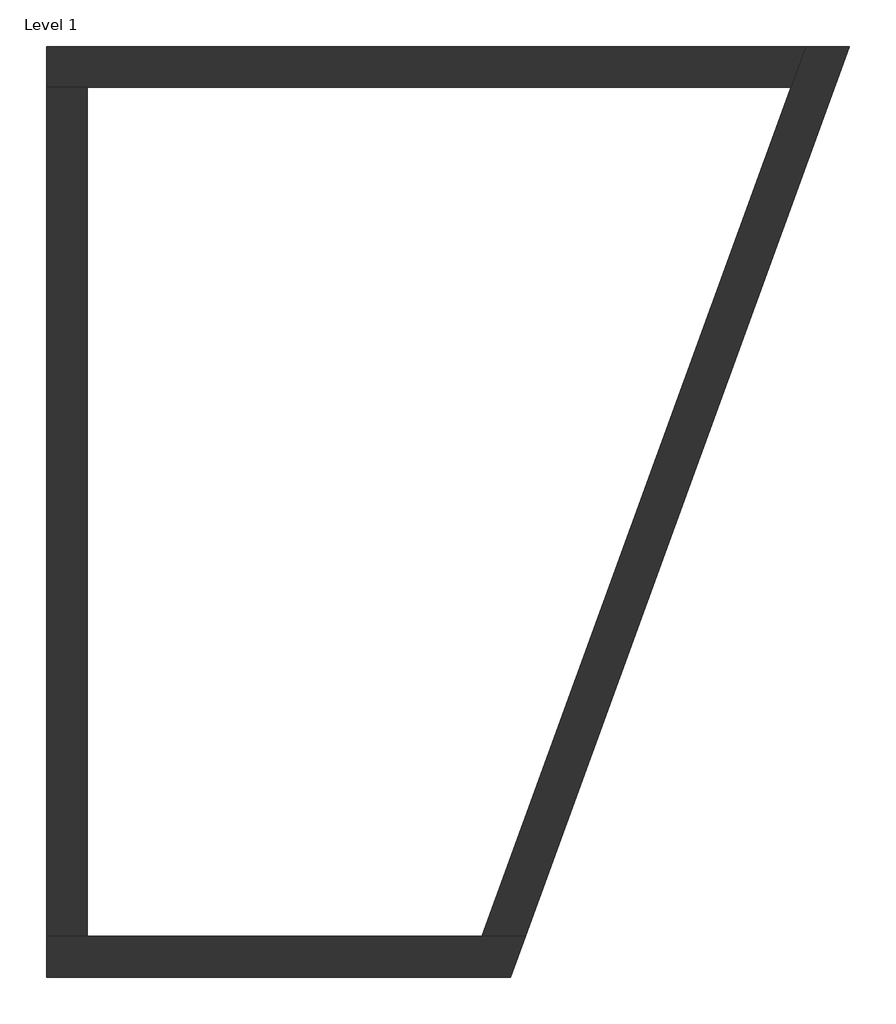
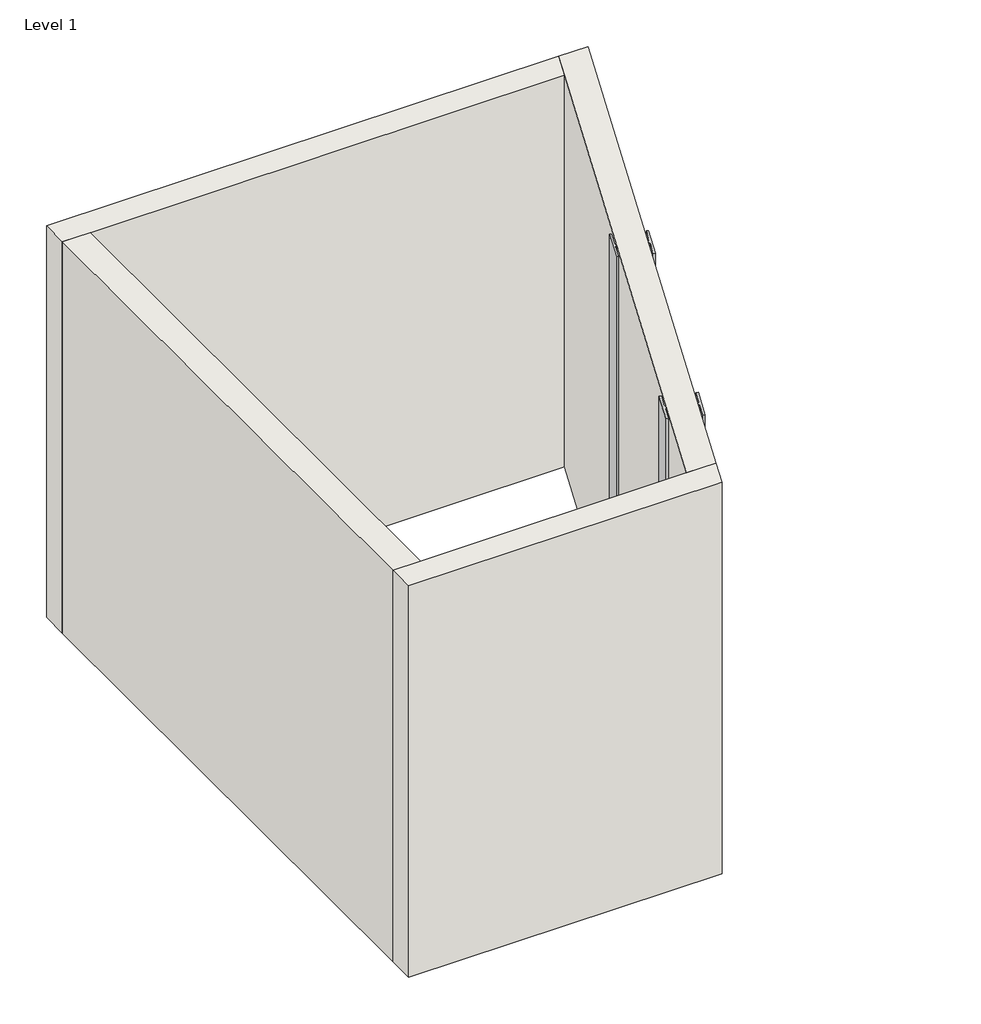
# One storey: 4 walls, 2 columns.
"""IFC4 building model written with IfcOpenShell, lengths in millimetres."""

import ifcopenshell
import ifcopenshell.guid

model = None  # the IFC model being written
_history = None  # IfcOwnerHistory: only IFC2X3 demands one
_inside = {}  # id of a spatial element -> (the spatial element, [elements in it])
_under = {}  # id of a project, library or spatial element -> (it, [spatial elements below it])
_declared = {}  # id of a project -> (the project, [libraries it declares])
_typed = {}  # id of a type object -> (the type object, [elements of that type])
_made_of = {}  # id of a material, layer set ... -> (it, [elements and type objects made of it])


def new_model(schema):
    """Start an empty IFC model of exactly this schema.

    Asked for "IFC4X3", IfcOpenShell would pick the latest addendum, in which some entities
    have other attributes; the version numbers below select the first issue.
    IFC2X3 requires an IfcOwnerHistory on every rooted entity: one is made here for all.
    """
    global model, _history
    if schema == "IFC4X3":
        model = ifcopenshell.file(schema_version=(4, 3, 0, 0))
    else:
        model = ifcopenshell.file(schema=schema)
    _inside.clear()
    _under.clear()
    _declared.clear()
    _typed.clear()
    _made_of.clear()
    _history = None
    if model.schema == "IFC2X3":
        org = make("IfcOrganization", Name="unknown")
        user = make(
            "IfcPersonAndOrganization",
            ThePerson=make("IfcPerson", FamilyName="unknown"),
            TheOrganization=org,
        )
        app = make(
            "IfcApplication",
            ApplicationDeveloper=org,
            Version="unknown",
            ApplicationFullName="unknown",
            ApplicationIdentifier="unknown",
        )
        _history = make(
            "IfcOwnerHistory",
            OwningUser=user,
            OwningApplication=app,
            ChangeAction="ADDED",
            CreationDate=0,
        )
    return model


def make(cls, **values):
    """One entity of the class cls with the attributes given. An attribute that is None is left unset."""
    return model.create_entity(
        cls, **{name: value for name, value in values.items() if value is not None}
    )


def rooted(cls, **values):
    """An entity with a GlobalId (a new one), such as an element, a storey or a relation."""
    return make(cls, GlobalId=ifcopenshell.guid.new(), OwnerHistory=_history, **values)


def si_unit(unit_type, name, prefix=None):
    """IfcSIUnit, for example si_unit("LENGTHUNIT", "METRE", prefix="MILLI")."""
    return make("IfcSIUnit", UnitType=unit_type, Prefix=prefix, Name=name)


def assignment(units):
    """IfcUnitAssignment: the units of a project."""
    return None if units is None else make("IfcUnitAssignment", Units=units)


def point(xyz):
    """IfcCartesianPoint."""
    return None if xyz is None else make("IfcCartesianPoint", Coordinates=xyz)


def direction(xyz):
    """IfcDirection."""
    return None if xyz is None else make("IfcDirection", DirectionRatios=xyz)


def frame(location, z_axis=None, x_axis=None):
    """IfcAxis2Placement3D, a coordinate frame: its origin and axes. An axis left out is left unset."""
    return make(
        "IfcAxis2Placement3D",
        Location=point(location),
        Axis=direction(z_axis),
        RefDirection=direction(x_axis),
    )


def frame_2d(location, x_axis=None):
    """IfcAxis2Placement2D, a coordinate frame in the plane: its origin and x axis."""
    return make(
        "IfcAxis2Placement2D", Location=point(location), RefDirection=direction(x_axis)
    )


def origin():
    """The frame at (0, 0, 0) with its axes left unset."""
    return frame((0.0, 0.0, 0.0))


def origin_with_axes():
    """The frame at (0, 0, 0) with the z axis (0, 0, 1) and the x axis (1, 0, 0) written out."""
    return frame((0.0, 0.0, 0.0), z_axis=(0.0, 0.0, 1.0), x_axis=(1.0, 0.0, 0.0))


def place(relative_to, where):
    """IfcLocalPlacement: puts the frame where relative to a parent placement (None: the world)."""
    return make(
        "IfcLocalPlacement", PlacementRelTo=relative_to, RelativePlacement=where
    )


def context(
    kind, dimensions, precision=None, world=None, true_north=None, identifier=None
):
    """IfcGeometricRepresentationContext, for example the 3D "Model" context."""
    return make(
        "IfcGeometricRepresentationContext",
        ContextIdentifier=identifier,
        ContextType=kind,
        CoordinateSpaceDimension=dimensions,
        Precision=precision,
        WorldCoordinateSystem=world,
        TrueNorth=true_north,
    )


def project(units=None, contexts=None):
    """IfcProject with its units and contexts."""
    return rooted(
        "IfcProject",
        Name="project",
        RepresentationContexts=contexts,
        UnitsInContext=assignment(units),
    )


def spatial(cls, under=None, at=None, **own):
    """A site, building, storey or space (cls), placed at a placement, below another one or the project."""
    s = rooted(cls, ObjectPlacement=at, **own)
    if under is not None:
        _under.setdefault(under.id(), (under, []))[1].append(s)
    return s


def polyline(points):
    """IfcPolyline through the points."""
    return make("IfcPolyline", Points=[point(p) for p in points])


def circle_curve(where, radius):
    """IfcCircle in the frame where."""
    return make("IfcCircle", Position=where, Radius=radius)


def trimmed(basis, trim1, trim2, sense, master):
    """IfcTrimmedCurve: the piece of a basis curve between two trims."""
    return make(
        "IfcTrimmedCurve",
        BasisCurve=basis,
        Trim1=trim1,
        Trim2=trim2,
        SenseAgreement=sense,
        MasterRepresentation=master,
    )


def segment(curve, same_sense, transition):
    """IfcCompositeCurveSegment."""
    return make(
        "IfcCompositeCurveSegment",
        Transition=transition,
        SameSense=same_sense,
        ParentCurve=curve,
    )


def composite_curve(segments, self_intersect=None):
    """IfcCompositeCurve: segments joined end to end."""
    return make("IfcCompositeCurve", Segments=segments, SelfIntersect=self_intersect)


def outline(outer, holes=None, kind="AREA"):
    """IfcArbitraryClosedProfileDef: a profile drawn as a closed curve; with holes, ...WithVoids."""
    if holes is None:
        return make("IfcArbitraryClosedProfileDef", ProfileType=kind, OuterCurve=outer)
    return make(
        "IfcArbitraryProfileDefWithVoids",
        ProfileType=kind,
        OuterCurve=outer,
        InnerCurves=holes,
    )


def extrude(swept, where, along, depth):
    """IfcExtrudedAreaSolid: the profile swept, set in the frame where, extruded along a direction by depth."""
    return make(
        "IfcExtrudedAreaSolid",
        SweptArea=swept,
        Position=where,
        ExtrudedDirection=direction(along),
        Depth=depth,
    )


def faces_of(points, faces, orient=None, outer=None):
    """IfcFace entities. A face is a list of loops; a loop is a list of indices into points, from 0.

    orient and outer hold one flag for each loop. By default every Orientation is true, the
    first loop of a face is its IfcFaceOuterBound and the others are IfcFaceBound.
    """
    made = []
    for i, loops in enumerate(faces):
        bounds = []
        for j, loop in enumerate(loops):
            is_outer = j == 0 if outer is None else outer[i][j]
            bounds.append(
                make(
                    "IfcFaceOuterBound" if is_outer else "IfcFaceBound",
                    Bound=make("IfcPolyLoop", Polygon=[points[k] for k in loop]),
                    Orientation=True if orient is None else orient[i][j],
                )
            )
        made.append(make("IfcFace", Bounds=bounds))
    return made


def faceted_brep(points, faces, orient=None, outer=None, voids=None):
    """IfcFacetedBrep: a solid bounded by flat faces; with voids (closed shells), ...WithVoids."""
    shared = [point(p) for p in points]
    hull = make("IfcClosedShell", CfsFaces=faces_of(shared, faces, orient, outer))
    if voids is None:
        return make("IfcFacetedBrep", Outer=hull)
    return make(
        "IfcFacetedBrepWithVoids",
        Outer=hull,
        Voids=[
            make(cls, CfsFaces=faces_of(shared, fs, o, b)) for cls, fs, o, b in voids
        ],
    )


def shape(context_of_items, identifier, shape_type, items):
    """IfcShapeRepresentation: the items that make up one representation, for example the "Body"."""
    return make(
        "IfcShapeRepresentation",
        ContextOfItems=context_of_items,
        RepresentationIdentifier=identifier,
        RepresentationType=shape_type,
        Items=items,
    )


def source(mapping_origin, context_of_items, identifier, shape_type, items):
    """IfcRepresentationMap: a shape defined once, which mapped items show again and again."""
    return make(
        "IfcRepresentationMap",
        MappingOrigin=mapping_origin,
        MappedRepresentation=shape(context_of_items, identifier, shape_type, items),
    )


def transform(
    local_origin,
    x_axis=None,
    y_axis=None,
    z_axis=None,
    scale=None,
    scale2=None,
    scale3=None,
    uniform=True,
):
    """IfcCartesianTransformationOperator3D, or its non-uniform kind. x_axis, y_axis, z_axis: its Axis1, 2, 3."""
    if uniform:
        return make(
            "IfcCartesianTransformationOperator3D",
            Axis1=direction(x_axis),
            Axis2=direction(y_axis),
            LocalOrigin=point(local_origin),
            Scale=scale,
            Axis3=direction(z_axis),
        )
    return make(
        "IfcCartesianTransformationOperator3DnonUniform",
        Axis1=direction(x_axis),
        Axis2=direction(y_axis),
        LocalOrigin=point(local_origin),
        Scale=scale,
        Axis3=direction(z_axis),
        Scale2=scale2,
        Scale3=scale3,
    )


def mapped(mapping_source, mapping_target):
    """IfcMappedItem: shows the shape of a source again, moved by a transform."""
    return make(
        "IfcMappedItem", MappingSource=mapping_source, MappingTarget=mapping_target
    )


def made_of(thing, what):
    """Note that an element or type object is made of a material, layer set ...; save() writes the relation."""
    if what is not None:
        _made_of.setdefault(what.id(), (what, []))[1].append(thing)
    return thing


def element(
    cls,
    number,
    at=None,
    inside=None,
    cuts=None,
    type_object=None,
    material=None,
    context=None,
    identifier="Body",
    shape_type=None,
    held_by="IfcProductDefinitionShape",
    body=None,
    shapes=None,
    **own,
):
    """One element of the class cls, such as IfcWall. Its Tag is "e" and its number.

    at: its placement. inside: the storey or other place that contains it. cuts: it is an
    opening in that element (IfcRelVoidsElement). A single representation is given by context,
    identifier, shape_type and body (its items); several are given by shapes. held_by: the class
    of the entity that holds the representations. save() writes the other relations.
    """
    e = rooted(cls, Tag="e%d" % number, ObjectPlacement=at, **own)
    if body is not None:
        shapes = [shape(context, identifier, shape_type, body)]
    if shapes is not None:
        e.Representation = make(held_by, Representations=shapes)
    if inside is not None:
        _inside.setdefault(inside.id(), (inside, []))[1].append(e)
    if cuts is not None:
        rooted(
            "IfcRelVoidsElement", RelatingBuildingElement=cuts, RelatedOpeningElement=e
        )
    if type_object is not None:
        _typed.setdefault(type_object.id(), (type_object, []))[1].append(e)
    return made_of(e, material)


def aggregate(whole, parts):
    """IfcRelAggregates: a whole, such as a stair, and the parts it consists of."""
    return rooted("IfcRelAggregates", RelatingObject=whole, RelatedObjects=parts)


def save(model, path):
    """Write the relations noted so far, then the file.

    IfcRelAggregates (storeys below a building ...), IfcRelContainedInSpatialStructure (elements
    in a storey), IfcRelDefinesByType, IfcRelAssociatesMaterial and IfcRelDeclares: one each for
    every whole, place, type object, material and project.
    """
    for whole, parts in _under.values():
        aggregate(whole, parts)
    for where, things in _inside.values():
        rooted(
            "IfcRelContainedInSpatialStructure",
            RelatedElements=things,
            RelatingStructure=where,
        )
    for kind, things in _typed.values():
        rooted("IfcRelDefinesByType", RelatedObjects=things, RelatingType=kind)
    for what, things in _made_of.values():
        rooted("IfcRelAssociatesMaterial", RelatedObjects=things, RelatingMaterial=what)
    for by, libraries in _declared.values():
        rooted("IfcRelDeclares", RelatingContext=by, RelatedDefinitions=libraries)
    model.write(path)


def w_wide_flange_column_w10x49_f24ffb9b(model_context):
    return source(origin(), model_context, "Body", "SweptSolid", [
        extrude(outline(composite_curve([segment(polyline([(127.0, 126.7519531), (127.0, 112.5636719), (21.8777344, 112.5636719)]), True, "CONTINUOUS"), segment(trimmed(circle_curve(frame_2d((21.8777344, 95.0019531)), 17.5617188), [point((21.8777344, 112.5636719))], [point((4.3160156, 95.0019531))], True, "CARTESIAN"), True, "CONTINUOUS"), segment(polyline([(4.3160156, 95.0019531), (4.3160156, -95.0019531)]), True, "CONTINUOUS"), segment(trimmed(circle_curve(frame_2d((21.8777344, -95.0019531)), 17.5617187), [point((4.3160156, -95.0019531))], [point((21.8777344, -112.5636719))], True, "CARTESIAN"), True, "CONTINUOUS"), segment(polyline([(21.8777344, -112.5636719), (127.0, -112.5636719), (127.0, -126.7519531), (-127.0, -126.7519531), (-127.0, -112.5636719), (-21.8777344, -112.5636719)]), True, "CONTINUOUS"), segment(trimmed(circle_curve(frame_2d((-21.8777344, -95.0019531)), 17.5617187), [point((-21.8777344, -112.5636719))], [point((-4.3160156, -95.0019531))], True, "CARTESIAN"), True, "CONTINUOUS"), segment(polyline([(-4.3160156, -95.0019531), (-4.3160156, 95.0019531)]), True, "CONTINUOUS"), segment(trimmed(circle_curve(frame_2d((-21.8777344, 95.0019531)), 17.5617188), [point((-4.3160156, 95.0019531))], [point((-21.8777344, 112.5636719))], True, "CARTESIAN"), True, "CONTINUOUS"), segment(polyline([(-21.8777344, 112.5636719), (-127.0, 112.5636719), (-127.0, 126.7519531), (127.0, 126.7519531)]), True, "CONTINUOUS")], self_intersect=False)), origin_with_axes(), (0.0, 0.0, 1.0), 3048.0),
    ])


model = new_model("IFC4")

# Units and contexts
model_context = context("Model", 3, world=origin())
ifc_project = project(units=[si_unit("LENGTHUNIT", "METRE", prefix="MILLI")], contexts=[model_context])

# Site, building, storey
site = spatial("IfcSite", under=ifc_project)
building = spatial("IfcBuilding", under=site)
storey = spatial("IfcBuildingStorey", under=building, Name="Level 1", Elevation=0.0)

# Columns
placement = place(None, origin())
w_wide_flange_column_w10x49_shape = w_wide_flange_column_w10x49_f24ffb9b(model_context)
element("IfcColumn", 1, ObjectType="W-Wide Flange-Column : W10X49", at=placement, inside=storey, context=model_context, shape_type="MappedRepresentation", body=[
    mapped(w_wide_flange_column_w10x49_shape, transform((-16369.8558091, 7341.7908339, 0.0), x_axis=(0.3420201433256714, 0.9396926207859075, 0.0), y_axis=(-0.9396926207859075, 0.3420201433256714, 0.0), z_axis=(0.0, 0.0, 1.0))),
])
element("IfcColumn", 2, ObjectType="W-Wide Flange-Column : W10X49", at=placement, inside=storey, context=model_context, shape_type="MappedRepresentation", body=[
    mapped(w_wide_flange_column_w10x49_shape, transform((-15744.369371, 9060.3006988, 0.0), x_axis=(0.3420201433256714, 0.9396926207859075, 0.0), y_axis=(-0.9396926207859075, 0.3420201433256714, 0.0), z_axis=(0.0, 0.0, 1.0))),
])

# Walls
element("IfcWall", 3, ObjectType="Generic - 8\"", at=placement, inside=storey, context=model_context, shape_type="Brep", body=[
    faceted_brep([(-18882.4011276, 6478.1908339, 0.0), (-16576.0600417, 6478.1908339, 0.0), (-16576.0600417, 6478.1908339, 3048.0), (-18882.4011276, 6478.1908339, 3048.0), (-18882.4011276, 6681.3908339, 0.0), (-18882.4011276, 6681.3908339, 3048.0), (-18679.2011276, 6681.3908339, 3048.0), (-16718.3422135, 6681.3908339, 3048.0), (-16502.1012901, 6681.3908339, 3048.0), (-16502.1012901, 6681.3908339, 0.0), (-16718.3422135, 6681.3908339, 0.0), (-18679.2011276, 6681.3908339, 0.0)], [[[0, 1, 2, 3]], [[4, 5, 6, 7, 8, 9, 10, 11]], [[1, 0, 4, 11, 10, 9]], [[3, 2, 8, 7, 6, 5]], [[2, 1, 9, 8]], [[0, 3, 5, 4]]]),
])
element("IfcWall", 4, ObjectType="Generic - 8\"", at=placement, inside=storey, context=model_context, shape_type="Brep", body=[
    faceted_brep([(-16502.1012901, 6681.3908339, 0.0), (-14893.4984427, 11100.9908339, 0.0), (-14893.4984427, 11100.9908339, 3048.0), (-16502.1012901, 6681.3908339, 3048.0), (-16718.3422135, 6681.3908339, 0.0), (-16718.3422135, 6681.3908339, 3048.0), (-15183.6981177, 10897.7908339, 3048.0), (-15109.7393661, 11100.9908339, 3048.0), (-15109.7393661, 11100.9908339, 0.0), (-15183.6981177, 10897.7908339, 0.0)], [[[0, 1, 2, 3]], [[4, 5, 6, 7, 8, 9]], [[1, 0, 4, 9, 8]], [[3, 2, 7, 6, 5]], [[0, 3, 5, 4]], [[2, 1, 8, 7]]]),
])
element("IfcWall", 5, ObjectType="Generic - 8\"", at=placement, inside=storey, context=model_context, shape_type="Brep", body=[
    faceted_brep([(-15109.7393661, 11100.9908339, 0.0), (-18882.4011276, 11100.9908339, 0.0), (-18882.4011276, 11100.9908339, 3048.0), (-15109.7393661, 11100.9908339, 3048.0), (-15183.6981177, 10897.7908339, 0.0), (-15183.6981177, 10897.7908339, 3048.0), (-18679.2011276, 10897.7908339, 3048.0), (-18882.4011276, 10897.7908339, 3048.0), (-18882.4011276, 10897.7908339, 0.0), (-18679.2011276, 10897.7908339, 0.0)], [[[0, 1, 2, 3]], [[4, 5, 6, 7, 8, 9]], [[1, 0, 4, 9, 8]], [[3, 2, 7, 6, 5]], [[0, 3, 5, 4]], [[2, 1, 8, 7]]]),
])
element("IfcWall", 6, ObjectType="Generic - 8\"", at=placement, inside=storey, context=model_context, shape_type="SweptSolid", body=[
    extrude(outline(polyline([(-18882.4011276, 6681.3908339), (-18882.4011276, 10897.7908339), (-18679.2011276, 10897.7908339), (-18679.2011276, 6681.3908339), (-18882.4011276, 6681.3908339)])), origin_with_axes(), (0.0, 0.0, 1.0), 3048.0),
])

save(model, "model.ifc")
